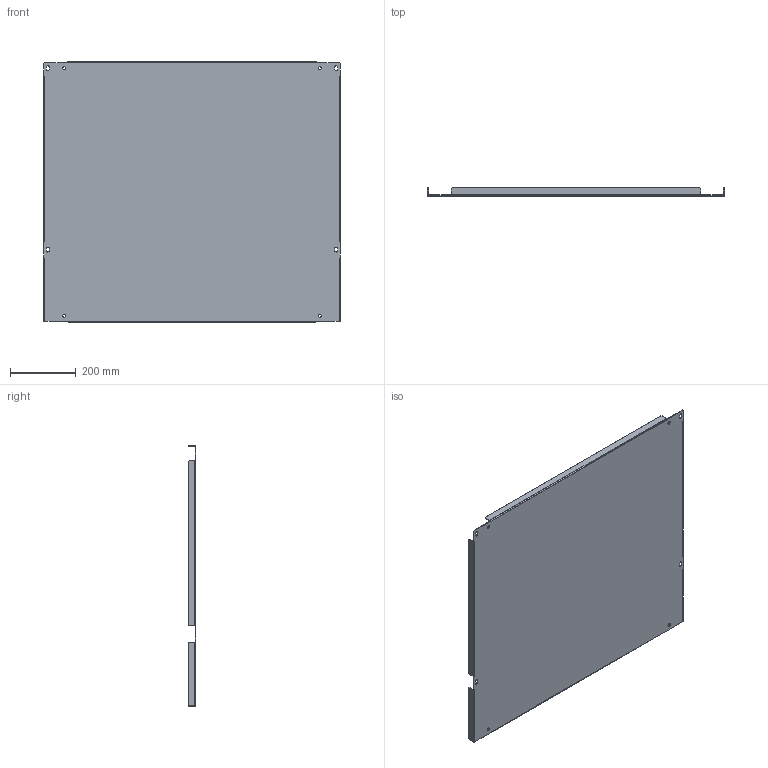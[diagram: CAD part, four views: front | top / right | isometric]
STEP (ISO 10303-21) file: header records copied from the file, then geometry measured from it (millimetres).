
FILE_DESCRIPTION (( 'STEP AP214' ), '1' );
FILE_NAME ('GCPZ10_V1.step', '2014-11-10T12:46:00', ( '' ), ( '' ), 'SwSTEP 2.0', 'SolidWorks 2014', '' );
FILE_SCHEMA (( 'AUTOMOTIVE_DESIGN' ));
Length unit declared in the file: millimetre
Products named in the file (1): GCPZ10_V1
Bounding box: 899 x 24 x 790 mm (x, y, z)
Volume: 1920295.7 mm3; surface area: 1546064.1 mm2
Topology: 1 solids, 1 shells, 98 faces, 268 edges, 172 vertices
Faces by surface type: plane 66, cylinder 32
Entity records: 4220 total; most frequent: CARTESIAN_POINT 539, ORIENTED_EDGE 536, DIRECTION 530, EDGE_CURVE 268, VECTOR 204, LINE 204, VERTEX_POINT 172, AXIS2_PLACEMENT_3D 163
